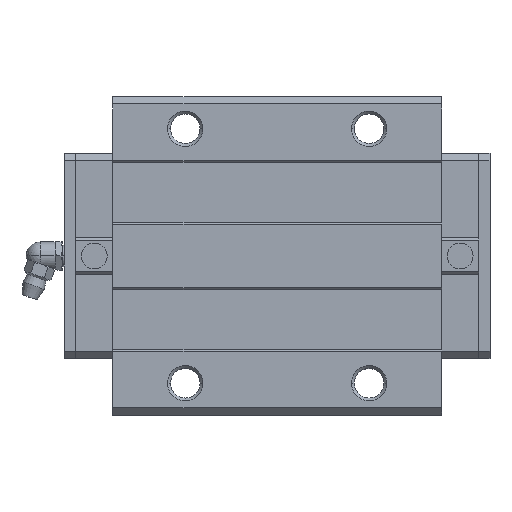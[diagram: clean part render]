
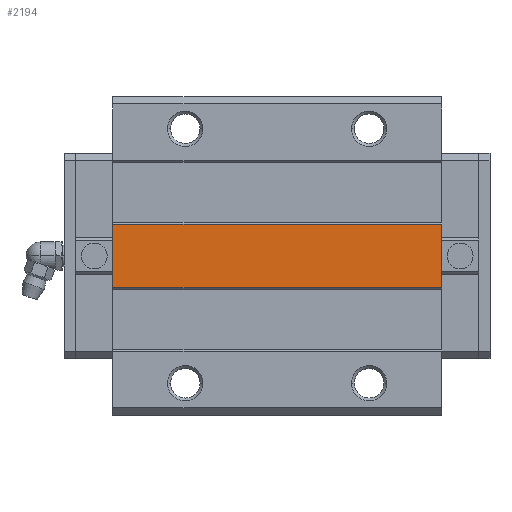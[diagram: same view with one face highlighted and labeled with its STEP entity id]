
A CAD part, top view. The second image highlights one B-rep face of the part: STEP entity #2194.
In plain terms, the highlighted planar face has unit normal (0, 0, 1).
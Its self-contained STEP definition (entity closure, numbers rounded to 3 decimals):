
#2133=CARTESIAN_POINT('POINT138',(106.7,-9.,
   36.));
#2134=VERTEX_POINT('VERTEX138',#2133);
#2141=CARTESIAN_POINT('POINT139',(13.7,-9.,
   36.));
#2142=VERTEX_POINT('VERTEX139',#2141);
#2143=CARTESIAN_POINT('POS208',(13.7,-9.,
   36.));
#2144=DIRECTION('DIR296',(1.,0.,0.));
#2145=VECTOR('VEC120',#2144,1.);
#2146=LINE('STRAIGHT120',#2143,#2145);
#2147=EDGE_CURVE('EDGE204',#2142,#2134,#2146,.T.);
#2164=CARTESIAN_POINT('POINT140',(106.7,9.,36.));
#2165=VERTEX_POINT('VERTEX140',#2164);
#2166=CARTESIAN_POINT('POS211',(106.7,0.,36.));
#2167=DIRECTION('DIR300',(0.,1.,0.));
#2168=VECTOR('VEC122',#2167,1.);
#2169=LINE('STRAIGHT122',#2166,#2168);
#2170=EDGE_CURVE('EDGE206',#2134,#2165,#2169,.T.);
#2171=ORIENTED_EDGE('COEDGE352',*,*,#2170,.T.);
#2172=CARTESIAN_POINT('POINT141',(13.7,9.,36.));
#2173=VERTEX_POINT('VERTEX141',#2172);
#2174=CARTESIAN_POINT('POS212',(13.7,9.,36.));
#2175=DIRECTION('DIR301',(1.,0.,0.));
#2176=VECTOR('VEC123',#2175,1.);
#2177=LINE('STRAIGHT123',#2174,#2176);
#2178=EDGE_CURVE('EDGE207',#2173,#2165,#2177,.T.);
#2179=ORIENTED_EDGE('COEDGE353',*,*,#2178,.F.);
#2180=CARTESIAN_POINT('POS213',(13.7,0.,36.));
#2181=DIRECTION('DIR302',(0.,1.,0.));
#2182=VECTOR('VEC124',#2181,1.);
#2183=LINE('STRAIGHT124',#2180,#2182);
#2184=EDGE_CURVE('EDGE208',#2142,#2173,#2183,.T.);
#2185=ORIENTED_EDGE('COEDGE354',*,*,#2184,.F.);
#2186=ORIENTED_EDGE('COEDGE355',*,*,#2147,.T.);
#2187=EDGE_LOOP('NONE',(#2171,#2179,#2185,#2186));
#2188=FACE_BOUND('LOOP1',#2187,.T.);
#2189=CARTESIAN_POINT('POS214',(13.7,0.,36.));
#2190=DIRECTION('DIR303',(0.,0.,1.));
#2191=DIRECTION('DIR304',(1.,0.,0.));
#2192=AXIS2_PLACEMENT_3D('AXIS90',#2189,#2190,#2191);
#2193=PLANE('PLANE26',#2192);
#2194=ADVANCED_FACE('FACE69',(#2188),#2193,.T.);
